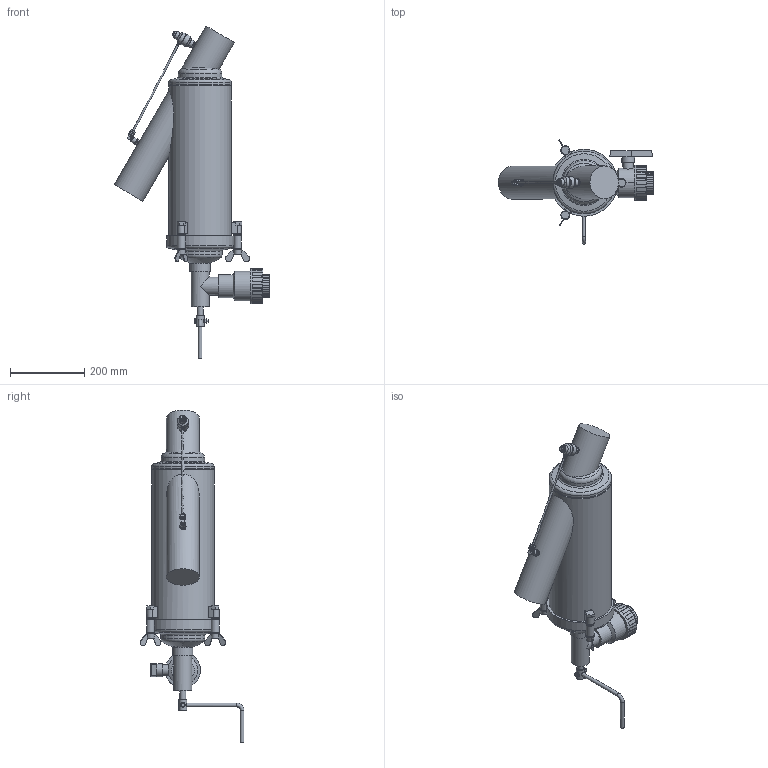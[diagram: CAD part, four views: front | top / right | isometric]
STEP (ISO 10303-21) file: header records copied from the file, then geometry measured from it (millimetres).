
FILE_DESCRIPTION (( 'STEP AP203' ), '1' );
FILE_NAME ('3-steel scanaway_3inch.STEP', '2016-07-06T11:34:55', ( 'user' ), ( 'Hewlett-Packard Company' ), 'SwSTEP 2.0', 'SolidWorks 2015', '' );
FILE_SCHEMA (( 'CONFIG_CONTROL_DESIGN' ));
Length unit declared in the file: millimetre
Products named in the file (1): 3-steel scanaway_3inch
Bounding box: 419.67 x 280.68 x 896.6 mm (x, y, z)
Volume: 14175658.4 mm3; surface area: 544360.1 mm2
Topology: 5 solids, 9 shells, 745 faces, 1841 edges, 1171 vertices
Faces by surface type: plane 401, cylinder 183, bspline 89, cone 39, torus 32, sphere 1
Full cylindrical faces by diameter (mm): 2.5 x1, 5 x1, 6 x3, 6.4 x2, 8 x2, 10 x3, 12 x10, 12.5 x2, 14 x1, 14.1 x1, 14.237 x1, 16 x1, 16.013 x1, 16.4 x1, 20 x2, 21.3 x4, 22 x3, 24 x3, 24.12 x1, 25 x1, 25.1 x1, 29 x1, 30 x1, 31 x1, 35 x1, 40.5 x1, 48.25 x2, 54.5 x1, 62 x1, 80 x1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
Entity records: 28184 total; most frequent: CARTESIAN_POINT 12146, ORIENTED_EDGE 3374, DIRECTION 2998, EDGE_CURVE 1687, AXIS2_PLACEMENT_3D 1119, VERTEX_POINT 1114, EDGE_LOOP 907, FACE_OUTER_BOUND 827
